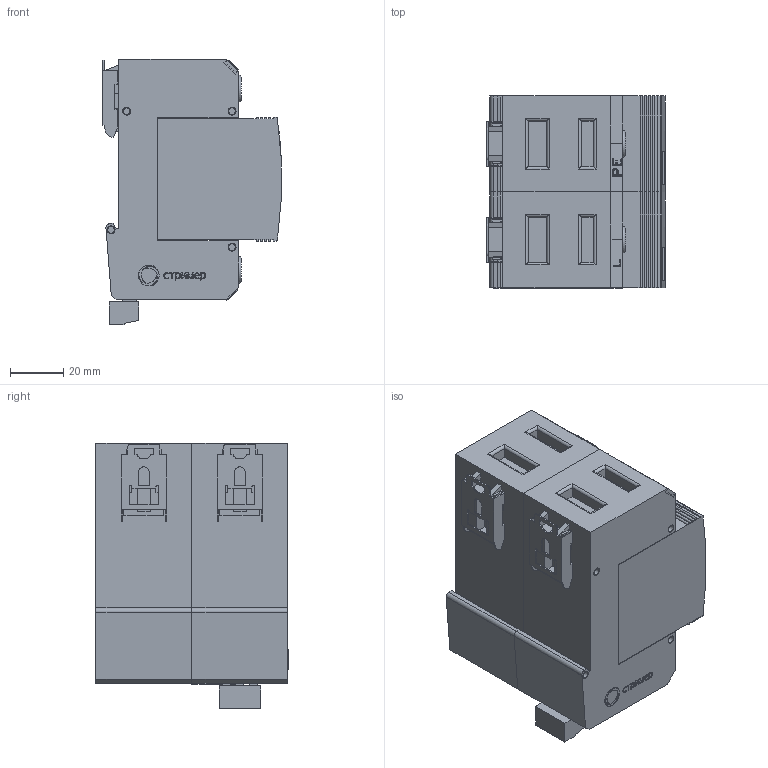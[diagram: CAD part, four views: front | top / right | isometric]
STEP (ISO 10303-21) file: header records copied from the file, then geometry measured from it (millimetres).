
FILE_DESCRIPTION(('TFLEX Exchange Step'),'2;1');
FILE_NAME('X2\041004400442\X0\.112_101.stp', '2022-08-30T13:49:45+03:00',('Ivan Berdigulov'),('Unknown organisation'),'TFLEX Exchange 2019.2','T-FLEX CAD','Unknown authorisation');
FILE_SCHEMA( ('AUTOMOTIVE_DESIGN { 1 0 10303 214 1 1 1 1 }') );
Length unit declared in the file: millimetre
Products named in the file (2): 0
Assembly tree (1 placements, depth 2):
  0
    0
Bounding box: 66.98 x 72.1 x 99.6 mm (x, y, z)
Volume: 347086.6 mm3; surface area: 71337.4 mm2
Topology: 63 solids, 63 shells, 971 faces, 2474 edges, 1659 vertices
Faces by surface type: plane 664, cylinder 205, bspline 92, torus 7, cone 3
Full cylindrical faces by diameter (mm): 1.6 x3, 2.5 x24, 3 x27, 4 x3
Entity records: 38440 total; most frequent: CARTESIAN_POINT 15322, ORIENTED_EDGE 4838, DIRECTION 4303, EDGE_CURVE 2419, VECTOR 1679, LINE 1679, VERTEX_POINT 1659, AXIS2_PLACEMENT_3D 1312
